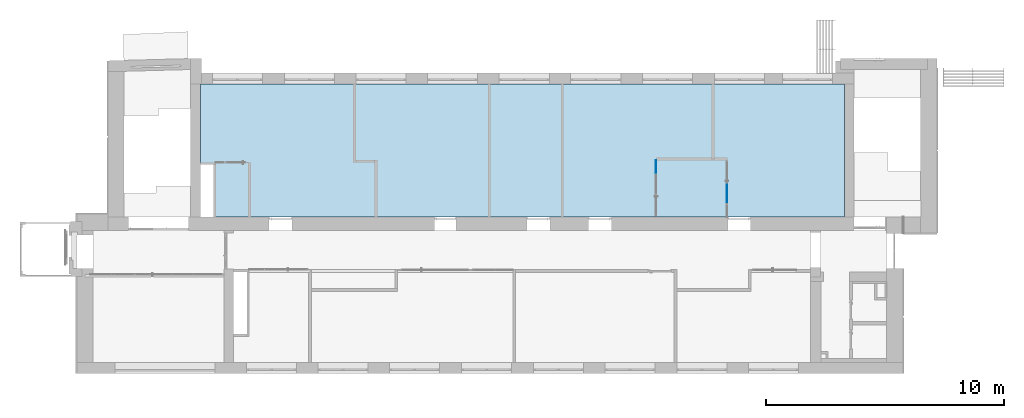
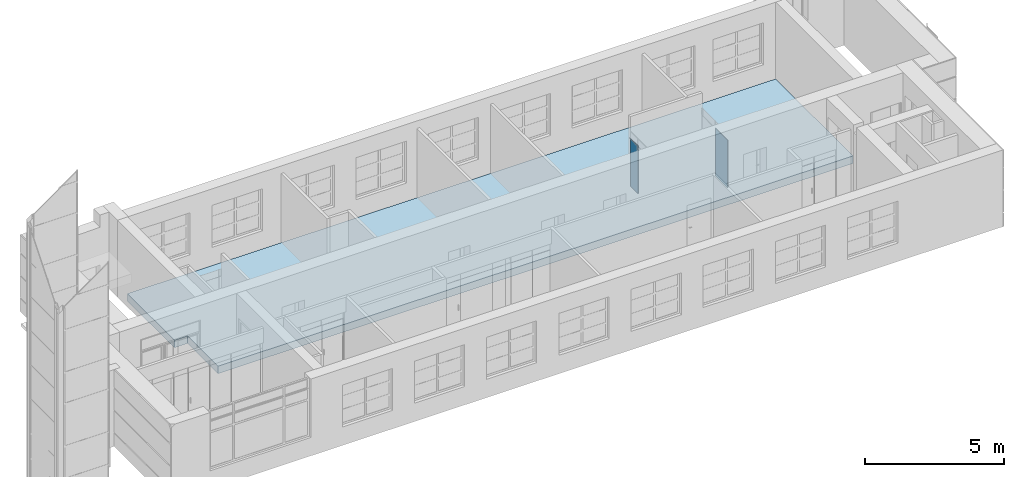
# One storey, part 24 of 66: 2 plates, 1 slab, 2 elements without a shape of their own.
"""IFC2X3 building model written with IfcOpenShell, lengths in millimetres."""

from ifc_helpers import new_model, entity, si_unit, converted_unit, derived_unit, direction, frame, origin, origin_2d_with_axis, place, context, subcontext, project, spatial, polyline, rectangle, outline, extrude, source, transform, mapped, material, layer, layer_set, layer_usage, type_object, type_shapes, element, aggregate, save


model = new_model("IFC2X3")

# Units and contexts
model_context = context("Model", 3, precision=0.01, world=origin(), true_north=direction((6.12303176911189e-17, 1.0)))
body_context = subcontext(model_context, "Body", "Model", "MODEL_VIEW")
ifc_project = project(units=[si_unit("LENGTHUNIT", "METRE", prefix="MILLI"), si_unit("AREAUNIT", "SQUARE_METRE"), si_unit("VOLUMEUNIT", "CUBIC_METRE"), converted_unit("PLANEANGLEUNIT", "DEGREE", entity("IfcRatioMeasure", 0.0174532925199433), si_unit("PLANEANGLEUNIT", "RADIAN"), dimensions=[0, 0, 0, 0, 0, 0, 0]), si_unit("MASSUNIT", "GRAM", prefix="KILO"), derived_unit("MASSDENSITYUNIT", [(si_unit("MASSUNIT", "GRAM", prefix="KILO"), 1), (si_unit("LENGTHUNIT", "METRE"), -3)]), si_unit("TIMEUNIT", "SECOND"), si_unit("FREQUENCYUNIT", "HERTZ"), si_unit("THERMODYNAMICTEMPERATUREUNIT", "DEGREE_CELSIUS"), derived_unit("THERMALTRANSMITTANCEUNIT", [(si_unit("MASSUNIT", "GRAM", prefix="KILO"), 1), (si_unit("THERMODYNAMICTEMPERATUREUNIT", "KELVIN"), -1), (si_unit("TIMEUNIT", "SECOND"), -3)]), derived_unit("VOLUMETRICFLOWRATEUNIT", [(si_unit("LENGTHUNIT", "METRE"), 3), (si_unit("TIMEUNIT", "SECOND"), -1)]), si_unit("ELECTRICCURRENTUNIT", "AMPERE"), si_unit("ELECTRICVOLTAGEUNIT", "VOLT"), si_unit("POWERUNIT", "WATT"), si_unit("FORCEUNIT", "NEWTON", prefix="KILO"), si_unit("ILLUMINANCEUNIT", "LUX"), si_unit("LUMINOUSFLUXUNIT", "LUMEN"), si_unit("LUMINOUSINTENSITYUNIT", "CANDELA"), derived_unit("USERDEFINED", [(si_unit("MASSUNIT", "GRAM", prefix="KILO"), -1), (si_unit("LENGTHUNIT", "METRE"), -2), (si_unit("TIMEUNIT", "SECOND"), 3), (si_unit("LUMINOUSFLUXUNIT", "LUMEN"), 1)]), derived_unit("LINEARVELOCITYUNIT", [(si_unit("LENGTHUNIT", "METRE"), 1), (si_unit("TIMEUNIT", "SECOND"), -1)]), si_unit("PRESSUREUNIT", "PASCAL"), derived_unit("USERDEFINED", [(si_unit("LENGTHUNIT", "METRE"), -2), (si_unit("MASSUNIT", "GRAM", prefix="KILO"), 1), (si_unit("TIMEUNIT", "SECOND"), -2)])], contexts=[model_context])

# Site, building, storey
site_placement = place(None, frame((-151.875543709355, 2715.0, 0.0)))
site = spatial("IfcSite", under=ifc_project, at=site_placement, Name="Surface", CompositionType="ELEMENT")
building_placement = place(site_placement, origin())
building = spatial("IfcBuilding", under=site, at=building_placement, CompositionType="ELEMENT")
storey_placement = place(building_placement, frame((0.0, 0.0, 3350.0)))
storey = spatial("IfcBuildingStorey", under=building, at=storey_placement, Name="2 korrus", CompositionType="ELEMENT", Elevation=3350.00000000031)

# Curtain wall, plate
curtain_wall_type = type_object("IfcCurtainWallType", Name="Curtain Wall:Klaassein KLS-05", PredefinedType="NOTDEFINED")
curtain_wall_1_placement = place(storey_placement, frame((0.0, 0.0, -3350.0)))
curtain_wall_1 = element("IfcCurtainWall", 1, at=curtain_wall_1_placement, inside=storey, type_object=curtain_wall_type, Name="Curtain Wall:Klaassein KLS-05", ObjectType="Curtain Wall:Klaassein KLS-05")
ifc_material_1 = material(Name="<Unnamed>")
ifc_layer_1 = layer(ifc_material_1, 20.0)
ifc_layer_set_1 = layer_set([ifc_layer_1], Name="Curtain Wall:Klaassein KLS-01")
ifc_layer_usage_1 = layer_usage(ifc_layer_set_1, "AXIS3", "POSITIVE", 0.0)
plate_type_1 = type_object("IfcPlateType", Name="Glazed", PredefinedType="CURTAIN_PANEL", material=ifc_layer_set_1)
shared_shape_1 = source(origin(), body_context, "Body", "SweptSolid", [
    extrude(rectangle(XDim=20.0, YDim=869.080118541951, at=origin_2d_with_axis()), frame((0.0, 0.0, 0.0), z_axis=(0.0, 0.0, 1.0), x_axis=(0.0, 1.0, 0.0)), (0.0, 0.0, 1.0), 2090.0),
])
type_shapes(plate_type_1, [shared_shape_1])
plate_1_placement = place(curtain_wall_1_placement, frame((27053.2859998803, 7539.45994072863, 3350.0), z_axis=(0.0, 0.0, 1.0), x_axis=(0.0, 1.0, 0.0)))
plate_1 = element("IfcPlate", 2, at=plate_1_placement, type_object=plate_type_1, material=ifc_layer_usage_1, Name="System Panel:Glazed", ObjectType="Glazed", context=body_context, shape_type="MappedRepresentation", body=[
    mapped(shared_shape_1, transform((0.0, 0.0, 0.0), scale=1.0)),
])
aggregate(curtain_wall_1, [plate_1])

curtain_wall_2_placement = place(storey_placement, frame((0.0, 0.0, -3350.0)))
curtain_wall_2 = element("IfcCurtainWall", 3, at=curtain_wall_2_placement, inside=storey, type_object=curtain_wall_type, Name="Curtain Wall:Klaassein KLS-05", ObjectType="Curtain Wall:Klaassein KLS-05")
ifc_layer_usage_2 = layer_usage(ifc_layer_set_1, "AXIS3", "POSITIVE", 0.0)
plate_type_2 = type_object("IfcPlateType", Name="Glazed", PredefinedType="CURTAIN_PANEL", material=ifc_layer_set_1)
shared_shape_2 = source(origin(), body_context, "Body", "SweptSolid", [
    extrude(rectangle(XDim=20.0, YDim=544.919881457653, at=origin_2d_with_axis()), frame((0.0, 0.0, 0.0), z_axis=(0.0, 0.0, 1.0), x_axis=(0.0, 1.0, 0.0)), (0.0, 0.0, 1.0), 2090.0),
])
type_shapes(plate_type_2, [shared_shape_2])
plate_2_placement = place(curtain_wall_2_placement, frame((24073.28599988, 8672.54005927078, 3350.0), z_axis=(0.0, 0.0, 1.0), x_axis=(0.0, -1.0, 0.0)))
plate_2 = element("IfcPlate", 4, at=plate_2_placement, type_object=plate_type_2, material=ifc_layer_usage_2, Name="System Panel:Glazed", ObjectType="Glazed", context=body_context, shape_type="MappedRepresentation", body=[
    mapped(shared_shape_2, transform((0.0, 0.0, 0.0), scale=1.0)),
])
aggregate(curtain_wall_2, [plate_2])

# Slab
ifc_material_2 = material(Name="Viimistlus")
ifc_layer_2 = layer(ifc_material_2, 20.0)
ifc_material_3 = material(Name="Betoon")
ifc_layer_3 = layer(ifc_material_3, 30.0)
ifc_material_4 = material(Name="Helisummutusvill")
ifc_layer_4 = layer(ifc_material_4, 30.0)
ifc_material_5 = material(Name="__Kergkruus")
ifc_layer_5 = layer(ifc_material_5, 30.0)
ifc_material_6 = material(Name="Betoon paneel")
ifc_layer_6 = layer(ifc_material_6, 220.0)
ifc_layer_set_2 = layer_set([ifc_layer_2, ifc_layer_3, ifc_layer_4, ifc_layer_5, ifc_layer_6], Name="Floor:VL-1_vahelagi olemasolevas hoones")
ifc_layer_usage_3 = layer_usage(ifc_layer_set_2, "AXIS3", "POSITIVE", 0.0)
slab_placement = place(storey_placement, origin())
element("IfcSlab", 5, at=slab_placement, inside=storey, material=ifc_layer_usage_3, Name="Floor:VL-1_vahelagi olemasolevas hoones", ObjectType="Floor:VL-1_vahelagi olemasolevas hoones", PredefinedType="FLOOR", context=body_context, shape_type="SweptSolid", body=[
    extrude(outline(polyline([(-17824.2594085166, -2596.66666666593), (8637.28246079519, -2596.66666666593), (8637.28246079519, -396.666666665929), (9186.78894522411, -396.666666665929), (9187.16495021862, 2993.33333333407), (-17824.2594085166, 2993.33333333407), (-17824.2594085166, -2596.66666666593)])), frame((14147.3568596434, 9156.66666666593, 0.0), z_axis=(0.0, 0.0, -1.0), x_axis=(-1.0, 0.0, 0.0)), (0.0, 0.0, 1.0), 330.0),
])

save(model, "model.ifc")
